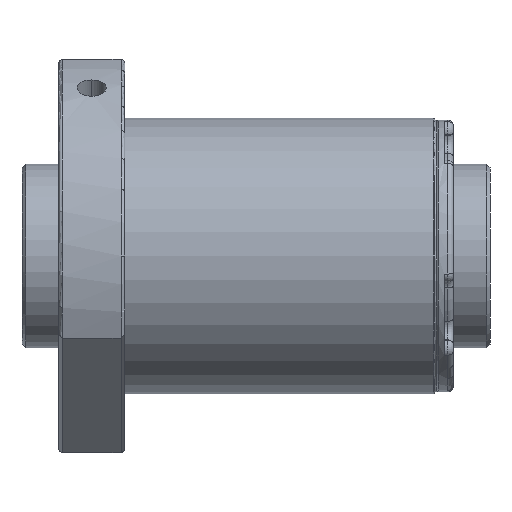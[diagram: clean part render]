
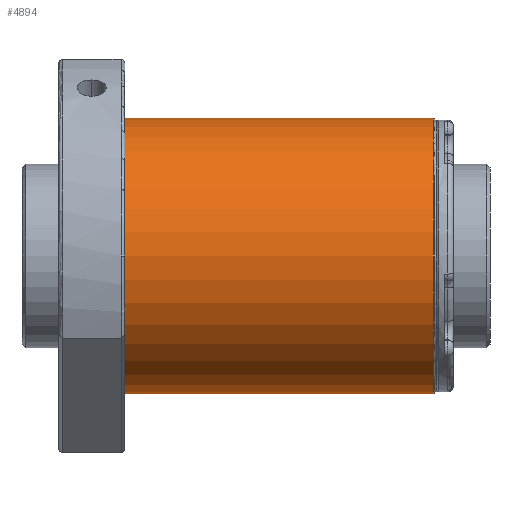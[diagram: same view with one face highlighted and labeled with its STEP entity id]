
A CAD part, front view. The second image highlights one B-rep face of the part: STEP entity #4894.
In plain terms, the highlighted cylindrical face has radius 37.5 mm (diameter 75 mm), a partial arc.
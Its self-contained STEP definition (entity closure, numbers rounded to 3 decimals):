
#34 = CIRCLE ( 'NONE', #5516, 37.5 ) ;
#206 = ORIENTED_EDGE ( 'NONE', *, *, #6799, .T. ) ;
#945 = LINE ( 'NONE', #7064, #4725 ) ;
#1065 = AXIS2_PLACEMENT_3D ( 'NONE', #7157, #9317, #10195 ) ;
#1603 = DIRECTION ( 'NONE',  ( 0., 0., 1. ) ) ;
#1625 = CIRCLE ( 'NONE', #7219, 37.5 ) ;
#2487 = CIRCLE ( 'NONE', #9350, 37.5 ) ;
#2715 = CYLINDRICAL_SURFACE ( 'NONE', #1065, 37.5 ) ;
#2803 = CARTESIAN_POINT ( 'NONE',  ( 102., -37.5, 0. ) ) ;
#2846 = EDGE_CURVE ( 'NONE', #9397, #10534, #8766, .T. ) ;
#2973 = CARTESIAN_POINT ( 'NONE',  ( 102., 0., 0. ) ) ;
#3656 = DIRECTION ( 'NONE',  ( -1., 0., 0. ) ) ;
#4307 = CARTESIAN_POINT ( 'NONE',  ( 18., 0., 0. ) ) ;
#4725 = VECTOR ( 'NONE', #5910, 1000. ) ;
#4742 = EDGE_CURVE ( 'NONE', #6632, #7016, #1625, .T. ) ;
#4894 = ADVANCED_FACE ( 'NONE', ( #7447 ), #2715, .T. ) ;
#5257 = DIRECTION ( 'NONE',  ( 1., 0., 0. ) ) ;
#5516 = AXIS2_PLACEMENT_3D ( 'NONE', #9744, #11689, #1603 ) ;
#5910 = DIRECTION ( 'NONE',  ( -1., 0., 0. ) ) ;
#5998 = DIRECTION ( 'NONE',  ( -1., 0., 0. ) ) ;
#6378 = VECTOR ( 'NONE', #3656, 1000. ) ;
#6474 = ORIENTED_EDGE ( 'NONE', *, *, #2846, .F. ) ;
#6632 = VERTEX_POINT ( 'NONE', #2803 ) ;
#6752 = ORIENTED_EDGE ( 'NONE', *, *, #7950, .T. ) ;
#6799 = EDGE_CURVE ( 'NONE', #7016, #12109, #945, .T. ) ;
#6984 = DIRECTION ( 'NONE',  ( 0., 0., 1. ) ) ;
#7016 = VERTEX_POINT ( 'NONE', #10322 ) ;
#7060 = CARTESIAN_POINT ( 'NONE',  ( 18., 0., -37.5 ) ) ;
#7064 = CARTESIAN_POINT ( 'NONE',  ( 0., 0., 37.5 ) ) ;
#7157 = CARTESIAN_POINT ( 'NONE',  ( 0., 0., 0. ) ) ;
#7170 = CARTESIAN_POINT ( 'NONE',  ( 18., 0., 37.5 ) ) ;
#7219 = AXIS2_PLACEMENT_3D ( 'NONE', #2973, #5998, #6984 ) ;
#7301 = EDGE_LOOP ( 'NONE', ( #6474, #6752, #9873, #206, #11271 ) ) ;
#7447 = FACE_OUTER_BOUND ( 'NONE', #7301, .T. ) ;
#7950 = EDGE_CURVE ( 'NONE', #9397, #6632, #34, .T. ) ;
#8766 = LINE ( 'NONE', #10652, #6378 ) ;
#9317 = DIRECTION ( 'NONE',  ( -1., 0., 0. ) ) ;
#9328 = EDGE_CURVE ( 'NONE', #12109, #10534, #2487, .T. ) ;
#9350 = AXIS2_PLACEMENT_3D ( 'NONE', #4307, #5257, #12370 ) ;
#9397 = VERTEX_POINT ( 'NONE', #10513 ) ;
#9744 = CARTESIAN_POINT ( 'NONE',  ( 102., 0., 0. ) ) ;
#9873 = ORIENTED_EDGE ( 'NONE', *, *, #4742, .T. ) ;
#10195 = DIRECTION ( 'NONE',  ( 0., 0., 1. ) ) ;
#10322 = CARTESIAN_POINT ( 'NONE',  ( 102., 0., 37.5 ) ) ;
#10513 = CARTESIAN_POINT ( 'NONE',  ( 102., 0., -37.5 ) ) ;
#10534 = VERTEX_POINT ( 'NONE', #7060 ) ;
#10652 = CARTESIAN_POINT ( 'NONE',  ( 0., 0., -37.5 ) ) ;
#11271 = ORIENTED_EDGE ( 'NONE', *, *, #9328, .T. ) ;
#11689 = DIRECTION ( 'NONE',  ( -1., 0., 0. ) ) ;
#12109 = VERTEX_POINT ( 'NONE', #7170 ) ;
#12370 = DIRECTION ( 'NONE',  ( 0., 0., 1. ) ) ;
